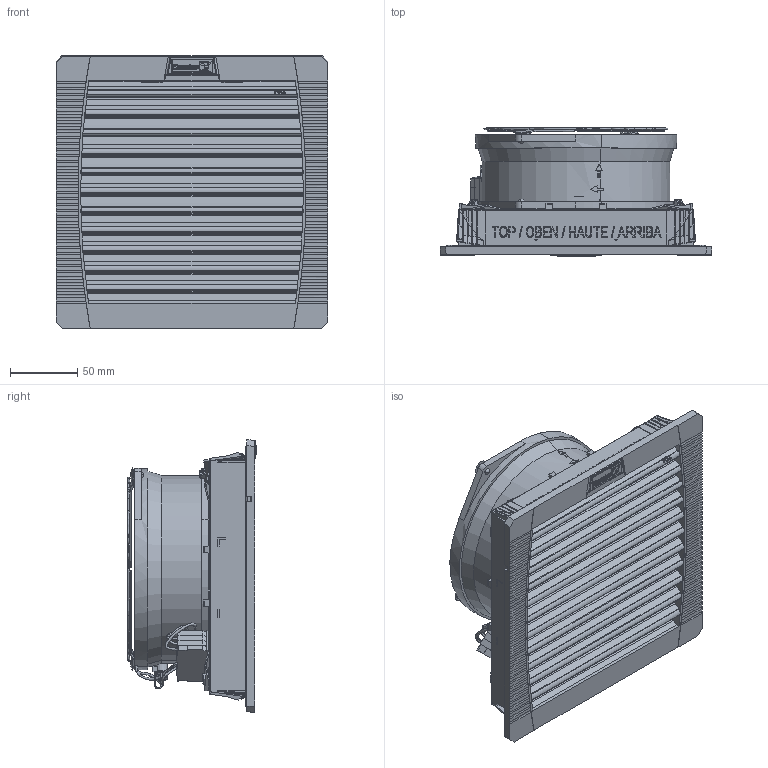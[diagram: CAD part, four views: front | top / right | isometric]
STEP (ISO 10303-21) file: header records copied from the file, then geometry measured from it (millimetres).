
FILE_DESCRIPTION (( 'STEP AP203' ), '1' );
FILE_NAME ('30164-110.STEP', '2018-01-22T15:47:57', ( '' ), ( '' ), 'SwSTEP 2.0', 'SolidWorks 2017', '' );
FILE_SCHEMA (( 'CONFIG_CONTROL_DESIGN' ));
Length unit declared in the file: millimetre
Products named in the file (17): 30164-110; 30164-020_Standard; 30164-011_Standard; Axial Lüfter Serie W2S130_010041540 W2S130-AA25-77 115V 130mmKabel; 30162-013_Standard; 005047030 - Berührungsschutzgitter LZ 27_005047030 - LZ27; 30164-012_Standard; 025416716_Standard; Schäumung PF3x000_Standard; Blindniet_020140201  4.0x11 K12 Maxi; 30164-040_Standard; 020200600_Kabelbinder Ty23_Standard; 30167-033_30167-033; Kabel Erdung PFx 33000_Standard; 11189-112_Standard; Kabel PF 33.x00 AC_Standard; 085000194_Standard
Assembly tree (19 placements, depth 3):
  30164-110
    30164-011_Standard
    30162-013_Standard
    30164-040_Standard
      30164-012_Standard
      Schäumung PF3x000_Standard
    30167-033_30167-033
    11189-112_Standard
    085000194_Standard
    30164-020_Standard
    Axial Lüfter Serie W2S130_010041540 W2S130-AA25-77 115V 130mmKabel
    005047030 - Berührungsschutzgitter LZ 27_005047030 - LZ27
    025416716_Standard
    Blindniet_020140201  4.0x11 K12 Maxi  x4
    020200600_Kabelbinder Ty23_Standard
    Kabel Erdung PFx 33000_Standard
    Kabel PF 33.x00 AC_Standard
Bounding box: 202.5 x 95.55 x 202.94 mm (x, y, z)
Volume: 605644.5 mm3; surface area: 644401.6 mm2
Topology: 27 solids, 27 shells, 6196 faces, 17237 edges, 10905 vertices
Faces by surface type: plane 3128, bspline 1616, cylinder 1118, torus 212, cone 74, sphere 48
Entity records: 284903 total; most frequent: CARTESIAN_POINT 140486, ORIENTED_EDGE 33630, DIRECTION 23186, EDGE_CURVE 16815, VERTEX_POINT 10863, VECTOR 9972, LINE 9972, EDGE_LOOP 6666
